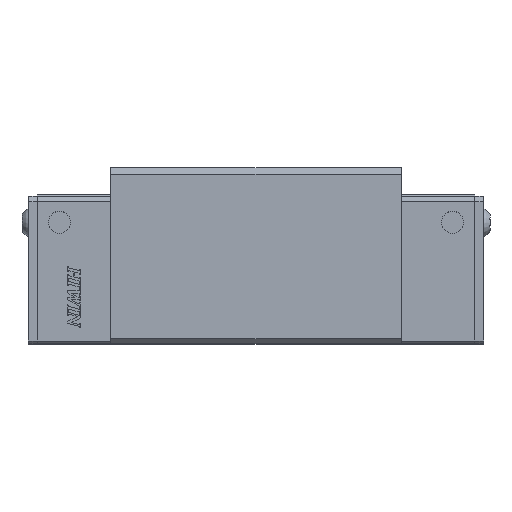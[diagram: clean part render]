
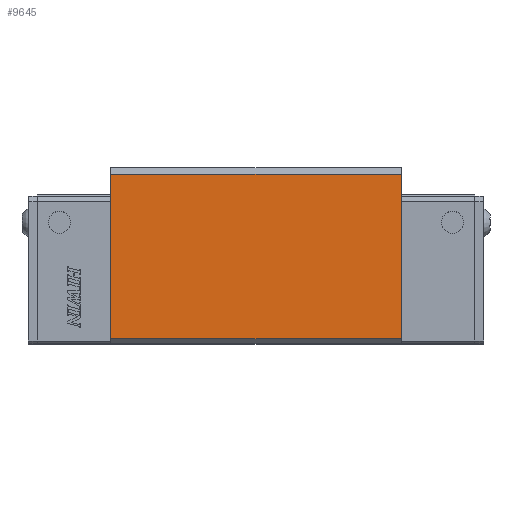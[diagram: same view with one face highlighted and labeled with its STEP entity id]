
A CAD part, top view. The second image highlights one B-rep face of the part: STEP entity #9645.
In plain terms, the highlighted planar face has unit normal (0, 0, 1) as drawn and (1, 0, 0) by its records, which use the part's own axes.
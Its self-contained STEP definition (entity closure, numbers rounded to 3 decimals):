
#727=LINE('',#14839,#1873);
#749=LINE('',#14891,#1895);
#801=LINE('',#15007,#1947);
#803=LINE('',#15010,#1949);
#1873=VECTOR('',#12035,45.2);
#1895=VECTOR('',#12085,106.5);
#1947=VECTOR('',#12209,106.5);
#1949=VECTOR('',#12213,45.2);
#2780=FACE_OUTER_BOUND('',#3307,.T.);
#3307=EDGE_LOOP('',(#7667,#7668,#7669,#7670));
#4290=VERTEX_POINT('',#14836);
#4291=VERTEX_POINT('',#14838);
#4307=VERTEX_POINT('',#14890);
#4335=VERTEX_POINT('',#15006);
#5446=EDGE_CURVE('',#4290,#4291,#727,.T.);
#5472=EDGE_CURVE('',#4291,#4307,#749,.T.);
#5530=EDGE_CURVE('',#4290,#4335,#801,.T.);
#5532=EDGE_CURVE('',#4307,#4335,#803,.T.);
#7667=ORIENTED_EDGE('',*,*,#5472,.F.);
#7668=ORIENTED_EDGE('',*,*,#5446,.F.);
#7669=ORIENTED_EDGE('',*,*,#5530,.T.);
#7670=ORIENTED_EDGE('',*,*,#5532,.F.);
#9196=PLANE('',#10388);
#9645=ADVANCED_FACE('',(#2780),#9196,.T.);
#10388=AXIS2_PLACEMENT_3D('',#15009,#12211,#12212);
#12035=DIRECTION('',(0.,-1.,0.));
#12085=DIRECTION('',(0.,0.,1.));
#12209=DIRECTION('',(0.,0.,1.));
#12211=DIRECTION('center_axis',(1.,0.,0.));
#12212=DIRECTION('ref_axis',(0.,1.,0.));
#12213=DIRECTION('',(0.,1.,0.));
#14836=CARTESIAN_POINT('',(28.893,19.232,-39.5));
#14838=CARTESIAN_POINT('',(28.893,-25.538,-39.5));
#14839=CARTESIAN_POINT('',(28.893,9.032,-39.5));
#14890=CARTESIAN_POINT('',(28.893,-25.538,39.5));
#14891=CARTESIAN_POINT('',(28.893,-25.538,0.));
#15006=CARTESIAN_POINT('',(28.893,19.232,39.5));
#15007=CARTESIAN_POINT('',(28.893,19.232,0.));
#15009=CARTESIAN_POINT('Origin',(28.893,9.032,0.));
#15010=CARTESIAN_POINT('',(28.893,-25.968,39.5));
